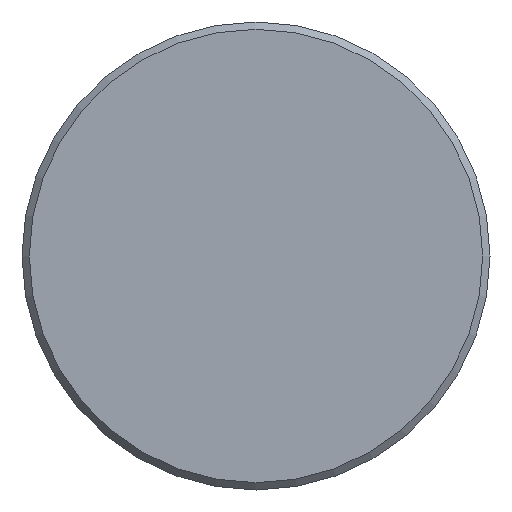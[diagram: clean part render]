
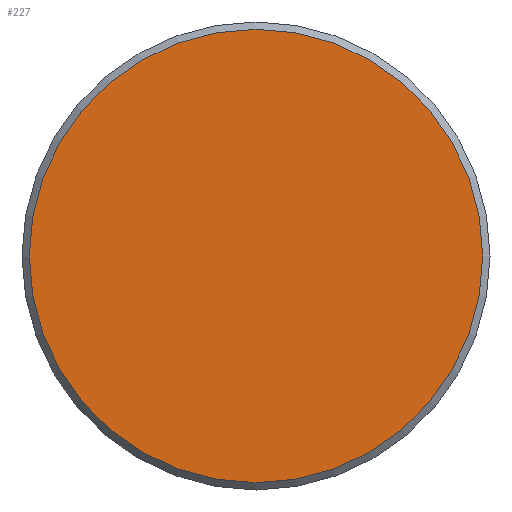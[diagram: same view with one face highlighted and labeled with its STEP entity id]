
A CAD part, front view. The second image highlights one B-rep face of the part: STEP entity #227.
In plain terms, the highlighted planar face has unit normal (0, -1, 0).
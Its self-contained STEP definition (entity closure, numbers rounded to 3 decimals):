
#227 = ADVANCED_FACE( '', ( #431 ), #432, .F. );
#431 = FACE_OUTER_BOUND( '', #613, .T. );
#432 = PLANE( '', #614 );
#613 = EDGE_LOOP( '', ( #981 ) );
#614 = AXIS2_PLACEMENT_3D( '', #982, #983, #984 );
#981 = ORIENTED_EDGE( '', *, *, #1115, .T. );
#982 = CARTESIAN_POINT( '', ( 15.5, 0., 0. ) );
#983 = DIRECTION( '', ( 0., 1., 0. ) );
#984 = DIRECTION( '', ( 0., 0., 1. ) );
#1115 = EDGE_CURVE( '', #1308, #1308, #1309, .T. );
#1308 = VERTEX_POINT( '', #1753 );
#1309 = CIRCLE( '', #1754, 15.5 );
#1753 = CARTESIAN_POINT( '', ( 0., 0., -15.5 ) );
#1754 = AXIS2_PLACEMENT_3D( '', #1913, #1914, #1915 );
#1913 = CARTESIAN_POINT( '', ( 0., 0., 0. ) );
#1914 = DIRECTION( '', ( 0., -1., 0. ) );
#1915 = DIRECTION( '', ( 0., 0., -1. ) );
